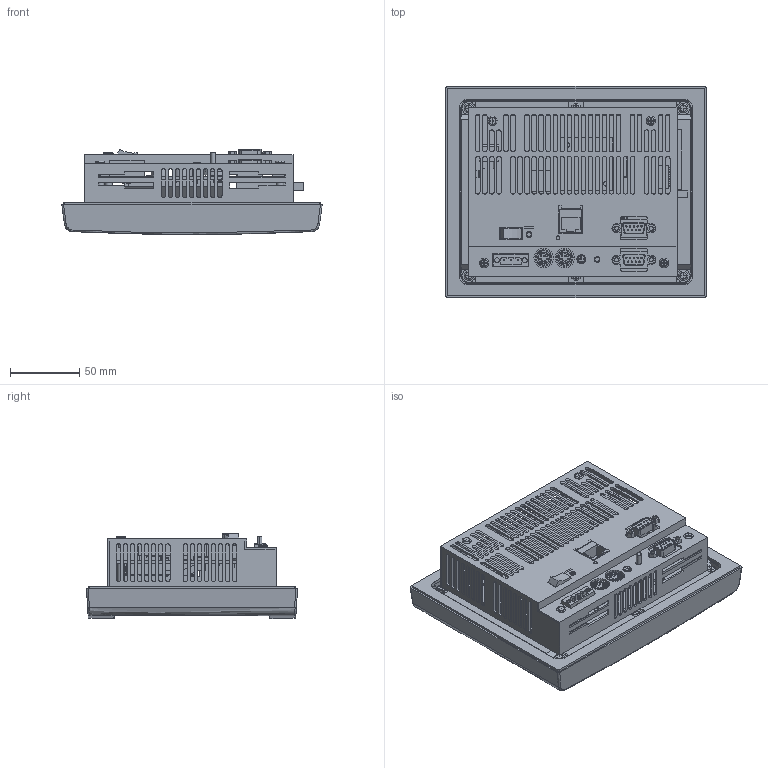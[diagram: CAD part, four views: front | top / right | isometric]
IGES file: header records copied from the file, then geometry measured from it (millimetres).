
Start section:  PTC IGES file: pa6dud.igs
Global section: file name: pa6dud.igs; native system: Pro/ENGINEER by Parametric Technology Corporation; preprocessor: 2000100; author: sebstein; organization: Unknown; date: 040415.090352; units: inch
Bounding box: 187.96 x 152.4 x 61.36 mm (x, y, z)
Surface area: 241910.8 mm2 (no closed solid volume)
Topology: 0 solids, 0 shells, 828 faces, 5954 edges, 5954 vertices
Faces by surface type: bspline 593, revolution 235
